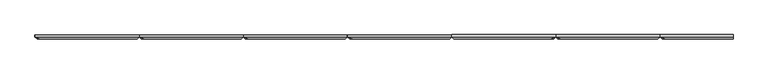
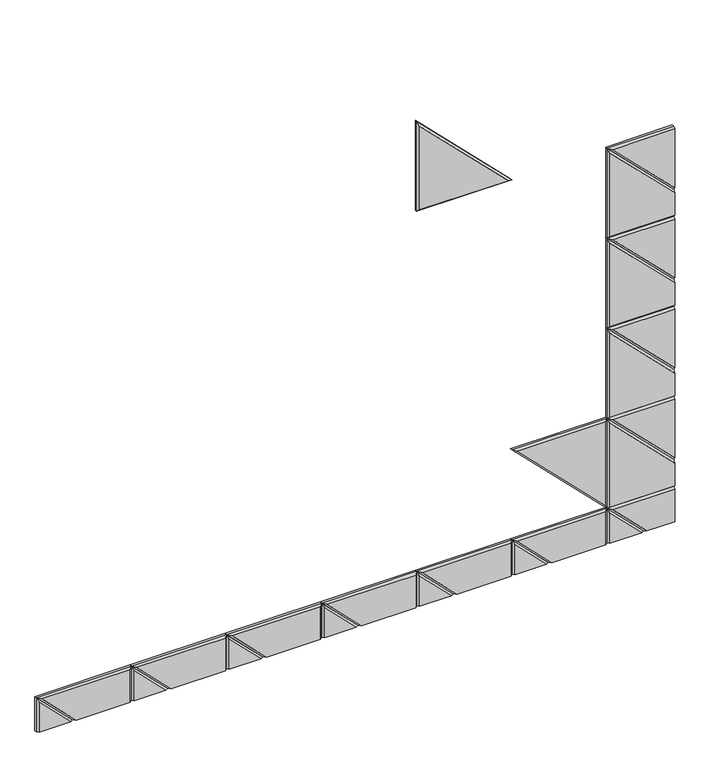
"""IFC4 building model written with IfcOpenShell, lengths in millimetres: proxy geometry, Wall_Akebia 3.3dm."""

from ifc_helpers import new_model, si_unit, origin, place, context, project, spatial, faceted_brep, source, transform, mapped, element, save


def generic_models_911a12b6(model_context):
    return source(origin(), model_context, "Body", "Brep", [
        faceted_brep([(1790.6965843, 12.0, 412.3976625), (1790.6965843, 12.0, 113.9476625), (1492.2465843, 12.0, 412.3976625), (1790.6965843, 6.0, 412.3976625), (1492.2465843, 6.0, 412.3976625), (1790.6965843, 6.0, 113.9476625), (1784.6965843, 0.0, 128.4329439), (1784.6965843, 0.0, 406.3976625), (1506.7318657, 0.0, 406.3976625)], [[[0, 1, 2]], [[3, 0, 2, 4]], [[4, 2, 1, 5]], [[5, 1, 0, 3]], [[6, 7, 8]], [[3, 4, 8, 7]], [[4, 5, 6, 8]], [[5, 3, 7, 6]]]),
        faceted_brep([(2000.0, 12.0, 1098.4465843), (2000.0, 12.0, 1009.3), (1790.6965843, 12.0, 1009.3), (1790.6965843, 12.0, 1307.75), (1790.6965843, 6.0, 1009.3), (1790.6965843, 6.0, 1307.75), (2000.0, 6.0, 1098.4465843), (2000.0, 6.0, 1009.3), (2000.0, 0.0, 1089.961303), (1796.6965843, 0.0, 1293.2647186), (1796.6965843, 0.0, 1015.3), (2000.0, 0.0, 1015.3)], [[[0, 1, 2, 3]], [[4, 5, 3, 2]], [[0, 3, 5, 6]], [[7, 4, 2, 1]], [[8, 9, 10, 11]], [[4, 10, 9, 5]], [[6, 5, 9, 8]], [[11, 10, 4, 7]], [[0, 6, 8, 11, 7, 1]]]),
        faceted_brep([(2000.0, 12.0, 1098.4465843), (1790.6965843, 12.0, 1307.75), (2000.0, 12.0, 1307.75), (2000.0, 6.0, 1307.75), (1790.6965843, 6.0, 1307.75), (2000.0, 6.0, 1098.4465843), (2000.0, 0.0, 1106.9318657), (2000.0, 0.0, 1301.75), (1805.1818657, 0.0, 1301.75)], [[[0, 1, 2]], [[3, 2, 1, 4]], [[0, 5, 4, 1]], [[6, 7, 8]], [[7, 3, 4, 8]], [[5, 6, 8, 4]], [[0, 2, 3, 7, 6, 5]]]),
        faceted_brep([(2000.0, 12.0, 799.9965843), (2000.0, 12.0, 710.85), (1790.6965843, 12.0, 710.85), (1790.6965843, 12.0, 1009.3), (1790.6965843, 6.0, 710.85), (1790.6965843, 6.0, 1009.3), (2000.0, 6.0, 799.9965843), (2000.0, 6.0, 710.85), (2000.0, 0.0, 791.511303), (1796.6965843, 0.0, 994.8147186), (1796.6965843, 0.0, 716.85), (2000.0, 0.0, 716.85)], [[[0, 1, 2, 3]], [[4, 5, 3, 2]], [[0, 3, 5, 6]], [[7, 4, 2, 1]], [[8, 9, 10, 11]], [[4, 10, 9, 5]], [[6, 5, 9, 8]], [[11, 10, 4, 7]], [[0, 6, 8, 11, 7, 1]]]),
        faceted_brep([(2000.0, 12.0, 799.9965843), (1790.6965843, 12.0, 1009.3), (2000.0, 12.0, 1009.3), (2000.0, 6.0, 1009.3), (1790.6965843, 6.0, 1009.3), (2000.0, 6.0, 799.9965843), (2000.0, 0.0, 808.4818657), (2000.0, 0.0, 1003.3), (1805.1818657, 0.0, 1003.3)], [[[0, 1, 2]], [[3, 2, 1, 4]], [[0, 5, 4, 1]], [[6, 7, 8]], [[7, 3, 4, 8]], [[5, 6, 8, 4]], [[0, 2, 3, 7, 6, 5]]]),
        faceted_brep([(2000.0, 12.0, 501.5465843), (2000.0, 12.0, 412.4), (1790.6965843, 12.0, 412.4), (1790.6965843, 12.0, 710.85), (1790.6965843, 6.0, 412.4), (1790.6965843, 6.0, 710.85), (2000.0, 6.0, 501.5465843), (2000.0, 6.0, 412.4), (2000.0, 0.0, 493.061303), (1796.6965843, 0.0, 696.3647186), (1796.6965843, 0.0, 418.4), (2000.0, 0.0, 418.4)], [[[0, 1, 2, 3]], [[4, 5, 3, 2]], [[0, 3, 5, 6]], [[7, 4, 2, 1]], [[8, 9, 10, 11]], [[4, 10, 9, 5]], [[6, 5, 9, 8]], [[11, 10, 4, 7]], [[0, 6, 8, 11, 7, 1]]]),
        faceted_brep([(2000.0, 12.0, 501.5465843), (1790.6965843, 12.0, 710.85), (2000.0, 12.0, 710.85), (2000.0, 6.0, 710.85), (1790.6965843, 6.0, 710.85), (2000.0, 6.0, 501.5465843), (2000.0, 0.0, 510.0318657), (2000.0, 0.0, 704.85), (1805.1818657, 0.0, 704.85)], [[[0, 1, 2]], [[3, 2, 1, 4]], [[0, 5, 4, 1]], [[6, 7, 8]], [[7, 3, 4, 8]], [[5, 6, 8, 4]], [[0, 2, 3, 7, 6, 5]]]),
        faceted_brep([(2000.0, 12.0, 203.0965843), (2000.0, 12.0, 113.95), (1790.6965843, 12.0, 113.95), (1790.6965843, 12.0, 412.4), (1790.6965843, 6.0, 113.95), (1790.6965843, 6.0, 412.4), (2000.0, 6.0, 203.0965843), (2000.0, 6.0, 113.95), (2000.0, 0.0, 194.611303), (1796.6965843, 0.0, 397.9147186), (1796.6965843, 0.0, 119.95), (2000.0, 0.0, 119.95)], [[[0, 1, 2, 3]], [[4, 5, 3, 2]], [[0, 3, 5, 6]], [[7, 4, 2, 1]], [[8, 9, 10, 11]], [[4, 10, 9, 5]], [[6, 5, 9, 8]], [[11, 10, 4, 7]], [[0, 6, 8, 11, 7, 1]]]),
        faceted_brep([(2000.0, 12.0, 203.0965843), (1790.6965843, 12.0, 412.4), (2000.0, 12.0, 412.4), (2000.0, 6.0, 412.4), (1790.6965843, 6.0, 412.4), (2000.0, 6.0, 203.0965843), (2000.0, 0.0, 211.5818657), (2000.0, 0.0, 406.4), (1805.1818657, 0.0, 406.4)], [[[0, 1, 2]], [[3, 2, 1, 4]], [[0, 5, 4, 1]], [[6, 7, 8]], [[7, 3, 4, 8]], [[5, 6, 8, 4]], [[0, 2, 3, 7, 6, 5]]]),
        faceted_brep([(113.9485377, 12.0, 0.0), (-0.0006831, 12.0, 0.0), (-0.0006831, 12.0, 113.9492208), (-0.0006831, 6.0, 0.0), (-0.0006831, 6.0, 113.9492208), (113.9485377, 6.0, 0.0), (105.4632563, 0.0, 0.0), (5.9993169, 0.0, 99.4639395), (5.9993169, 0.0, 0.0)], [[[0, 1, 2]], [[3, 4, 2, 1]], [[0, 2, 4, 5]], [[6, 7, 8]], [[8, 7, 4, 3]], [[5, 4, 7, 6]], [[0, 5, 6, 8, 3, 1]]]),
        faceted_brep([(113.9485377, 12.0, 0.0), (-0.0006831, 12.0, 113.9492208), (298.4493169, 12.0, 113.9492208), (298.4493169, 12.0, 0.0), (298.4493169, 6.0, 113.9492208), (-0.0006831, 6.0, 113.9492208), (113.9485377, 6.0, 0.0), (298.4493169, 6.0, 0.0), (122.4338191, 0.0, 0.0), (292.4493169, 0.0, 0.0), (292.4493169, 0.0, 107.9492208), (14.4845982, 0.0, 107.9492208)], [[[0, 1, 2, 3]], [[4, 2, 1, 5]], [[0, 6, 5, 1]], [[7, 3, 2, 4]], [[8, 9, 10, 11]], [[4, 5, 11, 10]], [[6, 8, 11, 5]], [[9, 7, 4, 10]], [[0, 3, 7, 9, 8, 6]]]),
        faceted_brep([(412.3970754, 12.0, 0.0), (298.4486337, 12.0, 0.0), (298.4486337, 12.0, 113.9484417), (298.4486337, 6.0, 0.0), (298.4486337, 6.0, 113.9484417), (412.3970754, 6.0, 0.0), (403.911794, 0.0, 0.0), (304.4486337, 0.0, 99.4631603), (304.4486337, 0.0, 0.0)], [[[0, 1, 2]], [[3, 4, 2, 1]], [[0, 2, 4, 5]], [[6, 7, 8]], [[8, 7, 4, 3]], [[5, 4, 7, 6]], [[0, 5, 6, 8, 3, 1]]]),
        faceted_brep([(412.3970754, 12.0, 0.0), (298.4486337, 12.0, 113.9484417), (596.8986337, 12.0, 113.9484417), (596.8986337, 12.0, 0.0), (596.8986337, 6.0, 113.9484417), (298.4486337, 6.0, 113.9484417), (412.3970754, 6.0, 0.0), (596.8986337, 6.0, 0.0), (420.8823568, 0.0, 0.0), (590.8986337, 0.0, 0.0), (590.8986337, 0.0, 107.9484417), (312.9339151, 0.0, 107.9484417)], [[[0, 1, 2, 3]], [[4, 2, 1, 5]], [[0, 6, 5, 1]], [[7, 3, 2, 4]], [[8, 9, 10, 11]], [[4, 5, 11, 10]], [[6, 8, 11, 5]], [[9, 7, 4, 10]], [[0, 3, 7, 9, 8, 6]]]),
        faceted_brep([(710.8471714, 12.0, 0.0), (596.8979506, 12.0, 0.0), (596.8979506, 12.0, 113.9492208), (596.8979506, 6.0, 0.0), (596.8979506, 6.0, 113.9492208), (710.8471714, 6.0, 0.0), (702.3618901, 0.0, 0.0), (602.8979506, 0.0, 99.4639395), (602.8979506, 0.0, 0.0)], [[[0, 1, 2]], [[3, 4, 2, 1]], [[0, 2, 4, 5]], [[6, 7, 8]], [[8, 7, 4, 3]], [[5, 4, 7, 6]], [[0, 5, 6, 8, 3, 1]]]),
        faceted_brep([(710.8471714, 12.0, 0.0), (596.8979506, 12.0, 113.9492208), (895.3479506, 12.0, 113.9492208), (895.3479506, 12.0, 0.0), (895.3479506, 6.0, 113.9492208), (596.8979506, 6.0, 113.9492208), (710.8471714, 6.0, 0.0), (895.3479506, 6.0, 0.0), (719.3324528, 0.0, 0.0), (889.3479506, 0.0, 0.0), (889.3479506, 0.0, 107.9492208), (611.383232, 0.0, 107.9492208)], [[[0, 1, 2, 3]], [[4, 2, 1, 5]], [[0, 6, 5, 1]], [[7, 3, 2, 4]], [[8, 9, 10, 11]], [[4, 5, 11, 10]], [[6, 8, 11, 5]], [[9, 7, 4, 10]], [[0, 3, 7, 9, 8, 6]]]),
        faceted_brep([(1009.2957091, 12.0, 0.0), (895.3472675, 12.0, 0.0), (895.3472675, 12.0, 113.9484417), (895.3472675, 6.0, 0.0), (895.3472675, 6.0, 113.9484417), (1009.2957091, 6.0, 0.0), (1000.8104278, 0.0, 0.0), (901.3472675, 0.0, 99.4631603), (901.3472675, 0.0, 0.0)], [[[0, 1, 2]], [[3, 4, 2, 1]], [[0, 2, 4, 5]], [[6, 7, 8]], [[8, 7, 4, 3]], [[5, 4, 7, 6]], [[0, 5, 6, 8, 3, 1]]]),
        faceted_brep([(1009.2957091, 12.0, 0.0), (895.3472675, 12.0, 113.9484417), (1193.7972675, 12.0, 113.9484417), (1193.7972675, 12.0, 0.0), (1193.7972675, 6.0, 113.9484417), (895.3472675, 6.0, 113.9484417), (1009.2957091, 6.0, 0.0), (1193.7972675, 6.0, 0.0), (1017.7809905, 0.0, 0.0), (1187.7972675, 0.0, 0.0), (1187.7972675, 0.0, 107.9484417), (909.8325488, 0.0, 107.9484417)], [[[0, 1, 2, 3]], [[4, 2, 1, 5]], [[0, 6, 5, 1]], [[7, 3, 2, 4]], [[8, 9, 10, 11]], [[4, 5, 11, 10]], [[6, 8, 11, 5]], [[9, 7, 4, 10]], [[0, 3, 7, 9, 8, 6]]]),
        faceted_brep([(1307.7442468, 12.0, 0.0), (1193.7965843, 12.0, 0.0), (1193.7965843, 12.0, 113.9476625), (1193.7965843, 6.0, 0.0), (1193.7965843, 6.0, 113.9476625), (1307.7442468, 6.0, 0.0), (1299.2589655, 0.0, 0.0), (1199.7965843, 0.0, 99.4623811), (1199.7965843, 0.0, 0.0)], [[[0, 1, 2]], [[3, 4, 2, 1]], [[0, 2, 4, 5]], [[6, 7, 8]], [[8, 7, 4, 3]], [[5, 4, 7, 6]], [[0, 5, 6, 8, 3, 1]]]),
        faceted_brep([(1307.7442468, 12.0, 0.0), (1193.7965843, 12.0, 113.9476625), (1492.2465843, 12.0, 113.9476625), (1492.2465843, 12.0, 0.0), (1492.2465843, 6.0, 113.9476625), (1193.7965843, 6.0, 113.9476625), (1307.7442468, 6.0, 0.0), (1492.2465843, 6.0, 0.0), (1316.2295282, 0.0, 0.0), (1486.2465843, 0.0, 0.0), (1486.2465843, 0.0, 107.9476625), (1208.2818657, 0.0, 107.9476625)], [[[0, 1, 2, 3]], [[4, 2, 1, 5]], [[0, 6, 5, 1]], [[7, 3, 2, 4]], [[8, 9, 10, 11]], [[4, 5, 11, 10]], [[6, 8, 11, 5]], [[9, 7, 4, 10]], [[0, 3, 7, 9, 8, 6]]]),
        faceted_brep([(1606.1942468, 12.0, 0.0), (1492.2465843, 12.0, 0.0), (1492.2465843, 12.0, 113.9476625), (1492.2465843, 6.0, 0.0), (1492.2465843, 6.0, 113.9476625), (1606.1942468, 6.0, 0.0), (1597.7089655, 0.0, 0.0), (1498.2465843, 0.0, 99.4623811), (1498.2465843, 0.0, 0.0)], [[[0, 1, 2]], [[3, 4, 2, 1]], [[0, 2, 4, 5]], [[6, 7, 8]], [[8, 7, 4, 3]], [[5, 4, 7, 6]], [[0, 5, 6, 8, 3, 1]]]),
        faceted_brep([(1606.1942468, 12.0, 0.0), (1492.2465843, 12.0, 113.9476625), (1790.6965843, 12.0, 113.9476625), (1790.6965843, 12.0, 0.0), (1790.6965843, 6.0, 113.9476625), (1492.2465843, 6.0, 113.9476625), (1606.1942468, 6.0, 0.0), (1790.6965843, 6.0, 0.0), (1614.6795282, 0.0, 0.0), (1784.6965843, 0.0, 0.0), (1784.6965843, 0.0, 107.9476625), (1506.7318657, 0.0, 107.9476625)], [[[0, 1, 2, 3]], [[4, 2, 1, 5]], [[0, 6, 5, 1]], [[7, 3, 2, 4]], [[8, 9, 10, 11]], [[4, 5, 11, 10]], [[6, 8, 11, 5]], [[9, 7, 4, 10]], [[0, 3, 7, 9, 8, 6]]]),
        faceted_brep([(1904.6465843, 12.0, 0.0), (1790.6965843, 12.0, 0.0), (1790.6965843, 12.0, 113.95), (1790.6965843, 6.0, 0.0), (1790.6965843, 6.0, 113.95), (1904.6465843, 6.0, 0.0), (1896.161303, 0.0, 0.0), (1796.6965843, 0.0, 99.4647186), (1796.6965843, 0.0, 0.0)], [[[0, 1, 2]], [[3, 4, 2, 1]], [[0, 2, 4, 5]], [[6, 7, 8]], [[8, 7, 4, 3]], [[5, 4, 7, 6]], [[0, 5, 6, 8, 3, 1]]]),
        faceted_brep([(1904.6465843, 12.0, 0.0), (1790.6965843, 12.0, 113.95), (2000.0, 12.0, 113.95), (2000.0, 12.0, 0.0), (2000.0, 6.0, 113.95), (1790.6965843, 6.0, 113.95), (1904.6465843, 6.0, 0.0), (1913.1318657, 0.0, 0.0), (2000.0, 0.0, 0.0), (2000.0, 0.0, 107.95), (1805.1818657, 0.0, 107.95)], [[[0, 1, 2, 3]], [[4, 2, 1, 5]], [[0, 6, 5, 1]], [[7, 8, 9, 10]], [[9, 4, 5, 10]], [[6, 7, 10, 5]], [[3, 2, 4, 9, 8]], [[0, 3, 8, 7, 6]]]),
        faceted_brep([(1193.7965843, 12.0, 1307.7476625), (1193.7965843, 12.0, 1606.1976625), (1492.2465843, 12.0, 1307.7476625), (1193.7965843, 6.0, 1307.7476625), (1193.7965843, 6.0, 1606.1976625), (1492.2465843, 6.0, 1307.7476625), (1477.761303, 0.0, 1313.7476625), (1199.7965843, 0.0, 1591.7123811), (1199.7965843, 0.0, 1313.7476625)], [[[0, 1, 2]], [[3, 4, 1, 0]], [[4, 5, 2, 1]], [[5, 3, 0, 2]], [[6, 7, 8]], [[3, 8, 7, 4]], [[4, 7, 6, 5]], [[5, 6, 8, 3]]]),
    ])


if __name__ == "__main__":
    model = new_model("IFC4")
    model_context = context("Model", 3, world=origin())
    ifc_project = project(units=[si_unit("LENGTHUNIT", "METRE", prefix="MILLI")], contexts=[model_context])
    site = spatial("IfcSite", under=ifc_project)
    building = spatial("IfcBuilding", under=site)
    placement = place(None, origin())
    generic_models_shape = generic_models_911a12b6(model_context)
    element("IfcBuildingElementProxy", 1, Name="Wall_Akebia 3.3dm", ObjectType="Wall_Akebia 3.3dm", at=placement, inside=building, context=model_context, shape_type="MappedRepresentation", body=[
        mapped(generic_models_shape, transform((0.0, 0.0, 0.0), x_axis=(1.0, 0.0, 0.0), y_axis=(0.0, 1.0, 0.0), z_axis=(0.0, 0.0, 1.0))),
    ])
    save(model, "model.ifc")
